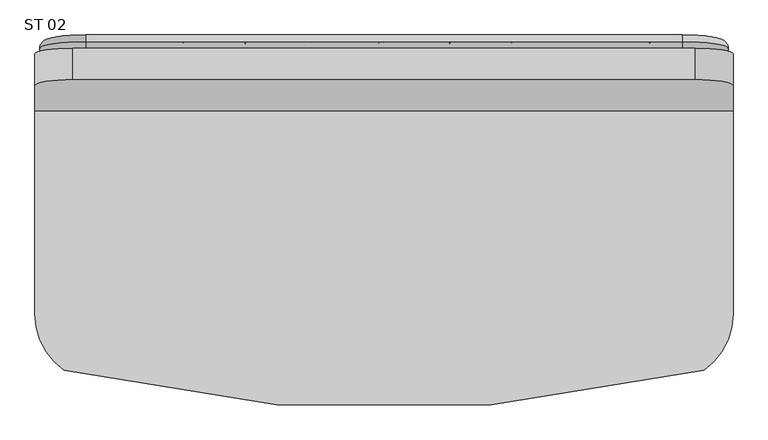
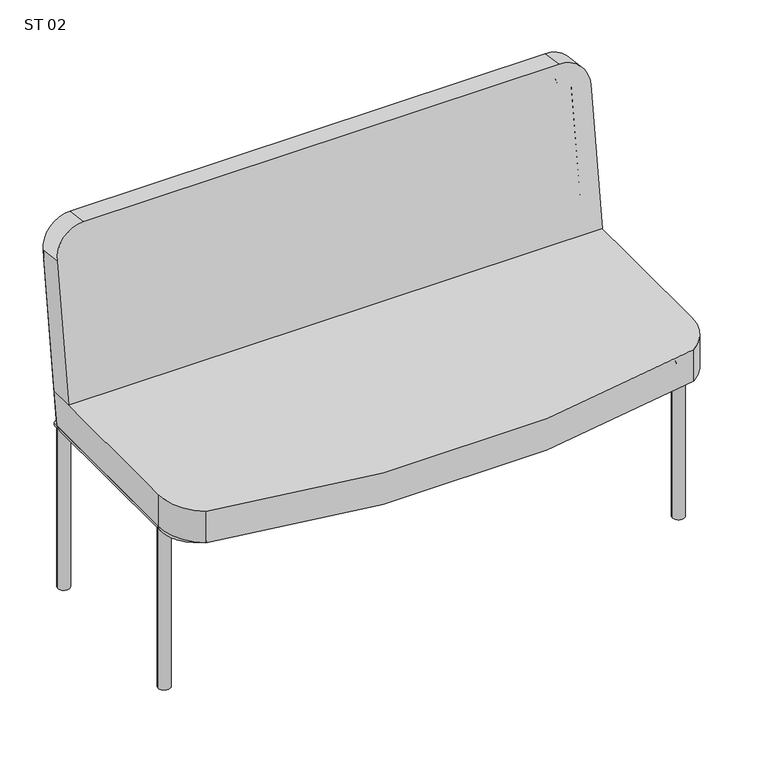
"""IFC4 building model written with IfcOpenShell, lengths in millimetres: furniture geometry, Mobiliário_Mobiliário de Escritório_Sofá - ST 02_Marelli : ST 02."""

from ifc_helpers import new_model, si_unit, point, frame, frame_2d, origin, origin_with_axes, place, context, project, spatial, circle_curve, ellipse_curve, trimmed, segment, composite_curve, outline, extrude, source, transform, mapped, element, save
from ifc_brep_helpers import plane_surface, cylinder_surface, revolved_surface, extruded_surface, advanced_brep


def st_02_cedb4559(model_context):
    return source(origin(), model_context, "Body", "SolidModel", [
        advanced_brep(
        [(1047.5, 412.5, 351.5), (1072.5, 437.5, 351.5), (1072.5, 65.0, 351.5), (1047.5, 65.0, 351.5), (995.0, 12.5, 351.5), (995.0, -12.5, 351.5), (65.0, -12.5, 351.5), (65.0, 12.5, 351.5), (12.5, 65.0, 351.5), (-12.5, 65.0, 351.5), (-12.5, 437.5, 351.5), (12.5, 412.5, 351.5)],
        [
            (0, 1, ellipse_curve(frame((1060.0, 425.0, 351.5), z_axis=(0.7071067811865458, -0.7071067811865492, 0.0), x_axis=(0.7071067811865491, 0.7071067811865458, 0.0)), 17.6776695, 12.5)),
            (1, 2),
            (2, 3, circle_curve(frame((1060.0, 65.0, 351.5), z_axis=(0.0, 1.0, 0.0), x_axis=(-1.0, 0.0, 0.0)), 12.5)),
            (3, 0),
            (1, 0, ellipse_curve(frame((1060.0, 425.0, 351.5), z_axis=(0.7071067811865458, -0.7071067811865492, 0.0), x_axis=(0.7071067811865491, 0.7071067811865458, 0.0)), 17.6776695, 12.5)),
            (3, 2, circle_curve(frame((1060.0, 65.0, 351.5), z_axis=(0.0, 1.0, 0.0), x_axis=(-1.0, 0.0, 0.0)), 12.5)),
            (4, 3, circle_curve(frame((995.0, 65.0, 351.5), z_axis=(0.0, 0.0, 1.0), x_axis=(1.0, 0.0, 0.0)), 52.5)),
            (2, 5, circle_curve(frame((995.0, 65.0, 351.5), z_axis=(0.0, 0.0, -1.0), x_axis=(1.0, 0.0, 0.0)), 77.5)),
            (5, 4, circle_curve(frame((995.0, 0.0, 351.5), z_axis=(1.0, 0.0, 0.0), x_axis=(0.0, 1.0, 0.0)), 12.5)),
            (4, 5, circle_curve(frame((995.0, 0.0, 351.5), z_axis=(1.0, 0.0, 0.0), x_axis=(0.0, 1.0, 0.0)), 12.5)),
            (5, 6),
            (6, 7, circle_curve(frame((65.0, 0.0, 351.5), z_axis=(1.0, 0.0, 0.0), x_axis=(0.0, 1.0, 0.0)), 12.5)),
            (7, 4),
            (7, 6, circle_curve(frame((65.0, 0.0, 351.5), z_axis=(1.0, 0.0, 0.0), x_axis=(0.0, 1.0, 0.0)), 12.5)),
            (8, 7, circle_curve(frame((65.0, 65.0, 351.5), z_axis=(0.0, 0.0, 1.0), x_axis=(0.0, -1.0, 0.0)), 52.5)),
            (6, 9, circle_curve(frame((65.0, 65.0, 351.5), z_axis=(0.0, 0.0, -1.0), x_axis=(0.0, -1.0, 0.0)), 77.5)),
            (9, 8, circle_curve(frame((0.0, 65.0, 351.5), z_axis=(0.0, -1.0, 0.0), x_axis=(1.0, 0.0, 0.0)), 12.5)),
            (8, 9, circle_curve(frame((0.0, 65.0, 351.5), z_axis=(0.0, -1.0, 0.0), x_axis=(1.0, 0.0, 0.0)), 12.5)),
            (9, 10),
            (10, 11, ellipse_curve(frame((0.0, 425.0, 351.5), z_axis=(-0.7071067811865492, -0.7071067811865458, 0.0), x_axis=(0.7071067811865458, -0.7071067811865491, 0.0)), 17.6776695, 12.5)),
            (11, 8),
            (11, 10, ellipse_curve(frame((0.0, 425.0, 351.5), z_axis=(-0.7071067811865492, -0.7071067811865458, 0.0), x_axis=(0.7071067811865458, -0.7071067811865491, 0.0)), 17.6776695, 12.5)),
            (10, 1),
            (0, 11),
        ],
        [
            cylinder_surface(frame((1060.0, 425.0, 351.5), z_axis=(0.0, 1.0, 0.0), x_axis=(-1.0, 0.0, 0.0)), 12.5),
            revolved_surface(trimmed(ellipse_curve(frame((1060.0, 65.0, 351.5), z_axis=(0.0, 1.0, 0.0), x_axis=(-1.0, 0.0, 0.0)), 12.5, 12.5), [point((1072.5, 65.0, 351.5))], [point((1047.5, 65.0, 351.5))], True, "CARTESIAN"), (995.0, 65.0, 0.0), (0.0, 0.0, -1.0)),
            revolved_surface(trimmed(ellipse_curve(frame((1060.0, 65.0, 351.5), z_axis=(0.0, 1.0, 0.0), x_axis=(-1.0, 0.0, 0.0)), 12.5, 12.5), [point((1047.5, 65.0, 351.5))], [point((1072.5, 65.0, 351.5))], True, "CARTESIAN"), (995.0, 65.0, 0.0), (0.0, 0.0, -1.0)),
            cylinder_surface(frame((995.0, 0.0, 351.5), z_axis=(1.0, 0.0, 0.0), x_axis=(0.0, 1.0, 0.0)), 12.5),
            revolved_surface(trimmed(ellipse_curve(frame((65.0, 0.0, 351.5), z_axis=(1.0, 0.0, 0.0), x_axis=(0.0, 1.0, 0.0)), 12.5, 12.5), [point((65.0, -12.5, 351.5))], [point((65.0, 12.5, 351.5))], True, "CARTESIAN"), (65.0, 65.0, 0.0), (0.0, 0.0, -1.0)),
            revolved_surface(trimmed(ellipse_curve(frame((65.0, 0.0, 351.5), z_axis=(1.0, 0.0, 0.0), x_axis=(0.0, 1.0, 0.0)), 12.5, 12.5), [point((65.0, 12.5, 351.5))], [point((65.0, -12.5, 351.5))], True, "CARTESIAN"), (65.0, 65.0, 0.0), (0.0, 0.0, -1.0)),
            cylinder_surface(frame((0.0, 65.0, 351.5), z_axis=(0.0, -1.0, 0.0), x_axis=(1.0, 0.0, 0.0)), 12.5),
            cylinder_surface(frame((0.0, 425.0, 351.5), z_axis=(-1.0, 0.0, 0.0), x_axis=(0.0, -1.0, 0.0)), 12.5),
        ],
        [
            (0, [[1, 2, 3, 4]]),
            (0, [[5, -4, 6, -2]]),
            (1, [[7, -3, 8, 9]]),
            (2, [[-8, -6, -7, 10]]),
            (3, [[-9, 11, 12, 13]]),
            (3, [[-10, -13, 14, -11]]),
            (4, [[15, -12, 16, 17]]),
            (5, [[-16, -14, -15, 18]]),
            (6, [[-17, 19, 20, 21]]),
            (6, [[-18, -21, 22, -19]]),
            (7, [[-20, 23, -1, 24]]),
            (7, [[-22, -24, -5, -23]]),
        ],
    ),
        extrude(outline(composite_curve([segment(trimmed(circle_curve(frame_2d((1060.0, 425.0)), 12.5), [point((1047.5, 425.0))], [point((1072.5, 425.0))], False, "CARTESIAN"), True, "CONTINUOUS"), segment(trimmed(circle_curve(frame_2d((1060.0, 425.0)), 12.5), [point((1072.5, 425.0))], [point((1047.5, 425.0))], False, "CARTESIAN"), True, "CONTINUOUS")], self_intersect=False)), origin_with_axes(), (0.0, 0.0, 1.0), 351.5),
        extrude(outline(composite_curve([segment(trimmed(circle_curve(frame_2d((0.0, 425.0)), 12.5), [point((-12.5, 425.0))], [point((12.5, 425.0))], False, "CARTESIAN"), True, "CONTINUOUS"), segment(trimmed(circle_curve(frame_2d((0.0, 425.0)), 12.5), [point((12.5, 425.0))], [point((-12.5, 425.0))], False, "CARTESIAN"), True, "CONTINUOUS")], self_intersect=False)), origin_with_axes(), (0.0, 0.0, 1.0), 351.5),
        extrude(outline(composite_curve([segment(trimmed(circle_curve(frame_2d((1060.0, 66.3272741)), 12.5), [point((1047.5, 66.3272741))], [point((1072.5, 66.3272741))], False, "CARTESIAN"), True, "CONTINUOUS"), segment(trimmed(circle_curve(frame_2d((1060.0, 66.3272741)), 12.5), [point((1072.5, 66.3272741))], [point((1047.5, 66.3272741))], False, "CARTESIAN"), True, "CONTINUOUS")], self_intersect=False)), origin_with_axes(), (0.0, 0.0, 1.0), 351.5),
        extrude(outline(composite_curve([segment(trimmed(circle_curve(frame_2d((0.0, 66.3272741)), 12.5), [point((-12.5, 66.3272741))], [point((12.5, 66.3272741))], False, "CARTESIAN"), True, "CONTINUOUS"), segment(trimmed(circle_curve(frame_2d((0.0, 66.3272741)), 12.5), [point((12.5, 66.3272741))], [point((-12.5, 66.3272741))], False, "CARTESIAN"), True, "CONTINUOUS")], self_intersect=False)), origin_with_axes(), (0.0, 0.0, 1.0), 351.5),
        advanced_brep(
        [(-12.5, 425.0, 351.5), (12.5, 425.0, 351.5), (-12.5, 472.3188543, 688.1911434), (12.5, 472.3188543, 688.1911434), (60.0, 478.9295766, 735.2288766), (60.0, 482.4089041, 759.9855784), (1000.0, 482.4089041, 759.9855784), (1000.0, 478.9295766, 735.2288766), (1047.5, 472.3188543, 688.1911434), (1072.5, 472.3188543, 688.1911434), (1072.5, 425.0, 351.5), (1047.5, 425.0, 351.5)],
        [
            (0, 1, circle_curve(frame((0.0, 425.0, 351.5), z_axis=(0.0, -0.13917310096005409, -0.990268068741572), x_axis=(1.0, 0.0, 0.0)), 12.5)),
            (1, 0, circle_curve(frame((0.0, 425.0, 351.5), z_axis=(0.0, -0.13917310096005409, -0.990268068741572), x_axis=(1.0, 0.0, 0.0)), 12.5)),
            (0, 2),
            (2, 3, circle_curve(frame((0.0, 472.3188543, 688.1911434), z_axis=(0.0, -0.13917310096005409, -0.990268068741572), x_axis=(1.0, 0.0, 0.0)), 12.5)),
            (3, 1),
            (3, 2, circle_curve(frame((0.0, 472.3188543, 688.1911434), z_axis=(0.0, -0.13917310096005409, -0.990268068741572), x_axis=(1.0, 0.0, 0.0)), 12.5)),
            (4, 3, circle_curve(frame((60.0, 472.3188543, 688.1911434), z_axis=(0.0, -0.990268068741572, 0.13917310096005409), x_axis=(-1.0, 0.0, 0.0)), 47.5)),
            (2, 5, circle_curve(frame((60.0, 472.3188543, 688.1911434), z_axis=(0.0, 0.990268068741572, -0.13917310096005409), x_axis=(-1.0, 0.0, 0.0)), 72.5)),
            (5, 4, circle_curve(frame((60.0, 480.6692404, 747.6072275), z_axis=(-1.0, 0.0, 0.0), x_axis=(0.0, -0.13917310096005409, -0.990268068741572)), 12.5)),
            (4, 5, circle_curve(frame((60.0, 480.6692404, 747.6072275), z_axis=(-1.0, 0.0, 0.0), x_axis=(0.0, -0.13917310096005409, -0.990268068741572)), 12.5)),
            (5, 6),
            (6, 7, circle_curve(frame((1000.0, 480.6692404, 747.6072275), z_axis=(-1.0, 0.0, 0.0), x_axis=(0.0, -0.13917310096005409, -0.990268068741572)), 12.5)),
            (7, 4),
            (7, 6, circle_curve(frame((1000.0, 480.6692404, 747.6072275), z_axis=(-1.0, 0.0, 0.0), x_axis=(0.0, -0.13917310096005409, -0.990268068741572)), 12.5)),
            (8, 7, circle_curve(frame((1000.0, 472.3188543, 688.1911434), z_axis=(0.0, -0.990268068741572, 0.13917310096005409), x_axis=(0.0, 0.13917310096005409, 0.990268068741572)), 47.5)),
            (6, 9, circle_curve(frame((1000.0, 472.3188543, 688.1911434), z_axis=(0.0, 0.990268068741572, -0.13917310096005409), x_axis=(0.0, 0.13917310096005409, 0.990268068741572)), 72.5)),
            (9, 8, circle_curve(frame((1060.0, 472.3188543, 688.1911434), z_axis=(0.0, 0.13917310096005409, 0.990268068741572), x_axis=(-1.0000000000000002, 0.0, 0.0)), 12.5)),
            (8, 9, circle_curve(frame((1060.0, 472.3188543, 688.1911434), z_axis=(0.0, 0.13917310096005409, 0.990268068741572), x_axis=(-1.0000000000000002, 0.0, 0.0)), 12.5)),
            (10, 11, circle_curve(frame((1060.0, 425.0, 351.5), z_axis=(0.0, -0.13917310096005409, -0.9902680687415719), x_axis=(-1.0, 0.0, 0.0)), 12.5)),
            (11, 10, circle_curve(frame((1060.0, 425.0, 351.5), z_axis=(0.0, -0.13917310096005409, -0.9902680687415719), x_axis=(-1.0, 0.0, 0.0)), 12.5)),
            (9, 10),
            (11, 8),
        ],
        [
            plane_surface(frame((0.0, 4.1360708, 410.6485679), z_axis=(0.0, -0.13917310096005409, -0.990268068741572), x_axis=(0.0, -0.990268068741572, 0.13917310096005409))),
            cylinder_surface(frame((0.0, 425.0, 351.5), z_axis=(0.0, -0.13917310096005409, -0.990268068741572), x_axis=(1.0, 0.0, 0.0)), 12.5),
            revolved_surface(trimmed(ellipse_curve(frame((0.0, 472.3188543, 688.1911434), z_axis=(0.0, -0.13917310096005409, -0.990268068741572), x_axis=(1.0, 0.0, 0.0)), 12.5, 12.5), [point((-12.5, 472.3188543, 688.1911434))], [point((12.5, 472.3188543, 688.1911434))], True, "CARTESIAN"), (60.0, 51.4549251, 747.3397113), (0.0, 0.990268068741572, -0.13917310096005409)),
            revolved_surface(trimmed(ellipse_curve(frame((0.0, 472.3188543, 688.1911434), z_axis=(0.0, -0.13917310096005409, -0.990268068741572), x_axis=(1.0, 0.0, 0.0)), 12.5, 12.5), [point((12.5, 472.3188543, 688.1911434))], [point((-12.5, 472.3188543, 688.1911434))], True, "CARTESIAN"), (60.0, 51.4549251, 747.3397113), (0.0, 0.990268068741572, -0.13917310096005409)),
            cylinder_surface(frame((60.0, 480.6692404, 747.6072275), z_axis=(-1.0, 0.0, 0.0), x_axis=(0.0, -0.13917310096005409, -0.990268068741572)), 12.5),
            revolved_surface(trimmed(ellipse_curve(frame((1000.0, 480.6692404, 747.6072275), z_axis=(-1.0000000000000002, 0.0, 0.0), x_axis=(0.0, -0.13917310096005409, -0.990268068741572)), 12.5, 12.5), [point((1000.0, 482.4089041, 759.9855784))], [point((1000.0, 478.9295766, 735.2288766))], True, "CARTESIAN"), (1000.0, 51.4549251, 747.3397113), (0.0, 0.990268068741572, -0.13917310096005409)),
            revolved_surface(trimmed(ellipse_curve(frame((1000.0, 480.6692404, 747.6072275), z_axis=(-1.0000000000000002, 0.0, 0.0), x_axis=(0.0, -0.13917310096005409, -0.990268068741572)), 12.5, 12.5), [point((1000.0, 478.9295766, 735.2288766))], [point((1000.0, 482.4089041, 759.9855784))], True, "CARTESIAN"), (1000.0, 51.4549251, 747.3397113), (0.0, 0.990268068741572, -0.13917310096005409)),
            plane_surface(frame((1060.0, 4.1360708, 410.6485679), z_axis=(0.0, -0.13917310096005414, -0.990268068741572), x_axis=(0.0, -0.990268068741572, 0.13917310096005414))),
            cylinder_surface(frame((1060.0, 472.3188543, 688.1911434), z_axis=(0.0, 0.13917310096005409, 0.9902680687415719), x_axis=(-1.0, 0.0, 0.0)), 12.5),
        ],
        [
            (0, [[1, 2]]),
            (1, [[-1, 3, 4, 5]]),
            (1, [[-2, -5, 6, -3]]),
            (2, [[7, -4, 8, 9]]),
            (3, [[-8, -6, -7, 10]]),
            (4, [[-9, 11, 12, 13]]),
            (4, [[-10, -13, 14, -11]]),
            (5, [[15, -12, 16, 17]]),
            (6, [[-16, -14, -15, 18]]),
            (7, [[19, 20]]),
            (8, [[-17, 21, -20, 22]]),
            (8, [[-18, -22, -19, -21]]),
        ],
    ),
        advanced_brep(
        [(1080.0, 373.2866825, 433.0), (1080.0, 423.7780611, 433.0), (1080.0, 463.5119814, 715.7215336), (1080.0, 413.998578, 722.6801887), (-20.0, 413.998578, 722.6801887), (-20.0, 463.5119814, 715.7215336), (-20.0, 423.7780611, 433.0), (-20.0, 373.2866825, 433.0), (1020.0, 422.348964, 782.0962728), (40.0, 422.348964, 782.0962728), (40.0, 471.8623675, 775.1376178), (1020.0, 471.8623675, 775.1376178)],
        [
            (0, 1),
            (1, 2),
            (2, 3),
            (3, 0),
            (4, 5),
            (5, 6),
            (6, 7),
            (7, 4),
            (0, 7),
            (6, 1),
            (3, 8, circle_curve(frame((1020.0, 413.998578, 722.6801887), z_axis=(0.0, -0.9902680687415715, 0.13917310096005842), x_axis=(-1.0, 0.0, 0.0)), 60.0)),
            (8, 9),
            (9, 4, circle_curve(frame((40.0, 413.998578, 722.6801887), z_axis=(0.0, -0.9902680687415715, 0.13917310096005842), x_axis=(1.0, 0.0, 0.0)), 60.0)),
            (5, 10, circle_curve(frame((40.0, 463.5119814, 715.7215336), z_axis=(0.0, 0.9902680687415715, -0.13917310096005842), x_axis=(1.0, 0.0, 0.0)), 60.0)),
            (10, 11),
            (11, 2, circle_curve(frame((1020.0, 463.5119814, 715.7215336), z_axis=(0.0, 0.9902680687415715, -0.13917310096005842), x_axis=(-1.0, 0.0, 0.0)), 60.0)),
            (11, 8),
            (10, 9),
        ],
        [
            plane_surface(frame((1080.0, 423.77933, 433.0), z_axis=(1.0, 0.0, 0.0), x_axis=(0.0, 1.0, 0.0))),
            plane_surface(frame((-20.0, 423.77933, 433.0), z_axis=(-1.0, 0.0, 0.0), x_axis=(0.0, -1.0, 0.0))),
            plane_surface(frame((1080.0, 373.2866825, 433.0), z_axis=(0.0, 0.0, -1.0), x_axis=(-1.0, 0.0, 0.0))),
            plane_surface(frame((1080.0, 374.2646577, 439.958655), z_axis=(0.0, -0.9902680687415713, 0.13917310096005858), x_axis=(-1.0, 0.0, 0.0))),
            plane_surface(frame((1080.0, 418.9765891, 398.8357516), z_axis=(0.0, 0.9902680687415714, -0.13917310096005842), x_axis=(0.0, -0.13917310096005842, -0.9902680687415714))),
            cylinder_surface(frame((1020.0, 463.5119814, 715.7215336), z_axis=(0.0, -0.9902680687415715, 0.13917310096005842), x_axis=(-1.0, 0.0, 0.0)), 60.0),
            plane_surface(frame((1020.0, 422.348964, 782.0962728), z_axis=(0.0, 0.13917310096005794, 0.9902680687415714), x_axis=(0.0, 0.9902680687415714, -0.13917310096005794))),
            cylinder_surface(frame((40.0, 463.5119814, 715.7215336), z_axis=(0.0, -0.9902680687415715, 0.13917310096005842), x_axis=(1.0, 0.0, 0.0)), 60.0),
        ],
        [
            (0, [[1, 2, 3, 4]]),
            (1, [[5, 6, 7, 8]]),
            (2, [[-1, 9, -7, 10]]),
            (3, [[-4, 11, 12, 13, -8, -9]]),
            (4, [[-6, 14, 15, 16, -2, -10]]),
            (5, [[-11, -3, -16, 17]]),
            (6, [[-12, -17, -15, 18]]),
            (7, [[-13, -18, -14, -5]]),
        ],
    ),
        advanced_brep(
        [(1080.0, 414.0807435, 364.0), (1080.0, 423.7780611, 433.0), (1080.0, 53.2866825, 433.0), (1080.0, 53.2866825, 364.0), (-20.0, 423.7780611, 433.0), (-20.0, 414.0807435, 364.0), (-20.0, 53.2866825, 364.0), (-20.0, 53.2866825, 433.0), (26.4720369, -35.1010659, 433.0), (1033.5279631, -35.1010659, 433.0), (1033.5279631, -35.1010659, 364.0), (26.4720369, -35.1010659, 364.0)],
        [
            (0, 1),
            (1, 2),
            (2, 3),
            (3, 0),
            (4, 5),
            (5, 6),
            (6, 7),
            (7, 4),
            (0, 5),
            (4, 1),
            (7, 8, circle_curve(frame((87.2908026, 53.2866825, 433.0), z_axis=(0.0, 0.0, 1.0), x_axis=(-1.0, 0.0, 0.0)), 107.2908026)),
            (8, 9, circle_curve(frame((530.0, 2007.6553786, 433.0), z_axis=(0.0, 0.0, 1.0), x_axis=(1.0, 0.0, 0.0)), 2103.899784)),
            (9, 2, circle_curve(frame((972.7091974, 53.2866825, 433.0), z_axis=(0.0, 0.0, 1.0), x_axis=(1.0, 0.0, 0.0)), 107.2908026)),
            (3, 10, circle_curve(frame((972.7091974, 53.2866825, 364.0), z_axis=(0.0, 0.0, -1.0), x_axis=(1.0, 0.0, 0.0)), 107.2908026)),
            (10, 11, circle_curve(frame((530.0, 2007.6553786, 364.0), z_axis=(0.0, 0.0, -1.0), x_axis=(1.0, 0.0, 0.0)), 2103.899784)),
            (11, 6, circle_curve(frame((87.2908026, 53.2866825, 364.0), z_axis=(0.0, 0.0, -1.0), x_axis=(-1.0, 0.0, 0.0)), 107.2908026)),
            (11, 8),
            (10, 9),
        ],
        [
            plane_surface(frame((1080.0, 414.0807435, 364.0), z_axis=(1.0000000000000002, 0.0, 0.0), x_axis=(0.0, 0.13917310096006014, 0.9902680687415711))),
            plane_surface(frame((-20.0, 414.0807435, 364.0), z_axis=(-1.0000000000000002, 0.0, 0.0), x_axis=(0.0, -0.13917310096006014, -0.9902680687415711))),
            plane_surface(frame((1080.0, 414.0807435, 364.0), z_axis=(0.0, 0.9902680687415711, -0.13917310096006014), x_axis=(-1.0, 0.0, 0.0))),
            plane_surface(frame((1080.0, 423.7780611, 433.0), z_axis=(0.0, 0.0, 1.0), x_axis=(-1.0, 0.0, 0.0))),
            plane_surface(frame((-20.0, 414.0807435, 364.0), z_axis=(0.0, 0.0, -1.0), x_axis=(1.0, 0.0, 0.0))),
            cylinder_surface(frame((87.2908026, 53.2866825, 364.0), z_axis=(0.0, 0.0, 1.0), x_axis=(-1.0, 0.0, 0.0)), 107.2908026),
            cylinder_surface(frame((530.0, 2007.6553786, 364.0), z_axis=(0.0, 0.0, 1.0), x_axis=(1.0, 0.0, 0.0)), 2103.899784),
            cylinder_surface(frame((972.7091974, 53.2866825, 364.0), z_axis=(0.0, 0.0, 1.0), x_axis=(1.0, 0.0, 0.0)), 107.2908026),
        ],
        [
            (0, [[1, 2, 3, 4]]),
            (1, [[5, 6, 7, 8]]),
            (2, [[-1, 9, -5, 10]]),
            (3, [[-2, -10, -8, 11, 12, 13]]),
            (4, [[-4, 14, 15, 16, -6, -9]]),
            (5, [[-11, -7, -16, 17]]),
            (6, [[-12, -17, -15, 18]]),
            (7, [[-13, -18, -14, -3]]),
        ],
    ),
        advanced_brep(
        [(101.0, 481.2780611, 750.0), (109.0, 481.2780611, 750.0), (101.0, 423.7780611, 350.0), (109.0, 423.7780611, 350.0)],
        [
            (0, 1, circle_curve(frame((105.0, 481.2780611, 750.0), z_axis=(0.0, 0.0, 1.0), x_axis=(1.0, 0.0, 0.0)), 4.0)),
            (1, 0, circle_curve(frame((105.0, 481.2780611, 750.0), z_axis=(0.0, 0.0, 1.0), x_axis=(1.0, 0.0, 0.0)), 4.0)),
            (2, 3, circle_curve(frame((105.0, 423.7780611, 350.0), z_axis=(0.0, 0.0, -1.0), x_axis=(1.0, 0.0, 0.0)), 4.0)),
            (3, 2, circle_curve(frame((105.0, 423.7780611, 350.0), z_axis=(0.0, 0.0, -1.0), x_axis=(1.0, 0.0, 0.0)), 4.0)),
            (3, 1),
            (0, 2),
        ],
        [
            plane_surface(frame((105.0, 481.2780611, 750.0), z_axis=(0.0, 0.0, 1.0), x_axis=(0.0, -1.0, 0.0))),
            plane_surface(frame((105.0, 423.7780611, 350.0), z_axis=(0.0, 0.0, -1.0), x_axis=(0.0, -1.0, 0.0))),
            extruded_surface(trimmed(circle_curve(frame((105.0, 423.7780611, 350.0), z_axis=(0.0, 0.0, 1.0), x_axis=(1.0, 0.0, 0.0)), 4.0), [point((101.0, 423.7780611, 350.0))], [point((109.0, 423.7780611, 350.0))], True, "CARTESIAN"), (0.0, 57.5, 400.0), 404.11168010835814),
            extruded_surface(trimmed(circle_curve(frame((105.0, 423.7780611, 350.0), z_axis=(0.0, 0.0, 1.0), x_axis=(1.0, 0.0, 0.0)), 4.0), [point((109.0, 423.7780611, 350.0))], [point((101.0, 423.7780611, 350.0))], True, "CARTESIAN"), (0.0, 57.5, 400.0), 404.11168010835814),
        ],
        [
            (0, [[1, 2]]),
            (1, [[3, 4]]),
            (2, [[-4, 5, -1, 6]]),
            (3, [[-3, -6, -2, -5]]),
        ],
    ),
        advanced_brep(
        [(206.0, 481.2780611, 750.0), (214.0, 481.2780611, 750.0), (206.0, 423.7780611, 350.0), (214.0, 423.7780611, 350.0)],
        [
            (0, 1, circle_curve(frame((210.0, 481.2780611, 750.0), z_axis=(0.0, 0.0, 1.0), x_axis=(1.0, 0.0, 0.0)), 4.0)),
            (1, 0, circle_curve(frame((210.0, 481.2780611, 750.0), z_axis=(0.0, 0.0, 1.0), x_axis=(1.0, 0.0, 0.0)), 4.0)),
            (2, 3, circle_curve(frame((210.0, 423.7780611, 350.0), z_axis=(0.0, 0.0, -1.0), x_axis=(1.0, 0.0, 0.0)), 4.0)),
            (3, 2, circle_curve(frame((210.0, 423.7780611, 350.0), z_axis=(0.0, 0.0, -1.0), x_axis=(1.0, 0.0, 0.0)), 4.0)),
            (3, 1),
            (0, 2),
        ],
        [
            plane_surface(frame((210.0, 481.2780611, 750.0), z_axis=(0.0, 0.0, 1.0), x_axis=(0.0, -1.0, 0.0))),
            plane_surface(frame((210.0, 423.7780611, 350.0), z_axis=(0.0, 0.0, -1.0), x_axis=(0.0, -1.0, 0.0))),
            extruded_surface(trimmed(circle_curve(frame((210.0, 423.7780611, 350.0), z_axis=(0.0, 0.0, 1.0), x_axis=(1.0, 0.0, 0.0)), 4.0), [point((206.0, 423.7780611, 350.0))], [point((214.0, 423.7780611, 350.0))], True, "CARTESIAN"), (0.0, 57.5, 400.0), 404.11168010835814),
            extruded_surface(trimmed(circle_curve(frame((210.0, 423.7780611, 350.0), z_axis=(0.0, 0.0, 1.0), x_axis=(1.0, 0.0, 0.0)), 4.0), [point((214.0, 423.7780611, 350.0))], [point((206.0, 423.7780611, 350.0))], True, "CARTESIAN"), (0.0, 57.5, 400.0), 404.11168010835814),
        ],
        [
            (0, [[1, 2]]),
            (1, [[3, 4]]),
            (2, [[-4, 5, -1, 6]]),
            (3, [[-3, -6, -2, -5]]),
        ],
    ),
        advanced_brep(
        [(311.0, 481.2780611, 750.0), (319.0, 481.2780611, 750.0), (311.0, 423.7780611, 350.0), (319.0, 423.7780611, 350.0)],
        [
            (0, 1, circle_curve(frame((315.0, 481.2780611, 750.0), z_axis=(0.0, 0.0, 1.0), x_axis=(1.0, 0.0, 0.0)), 4.0)),
            (1, 0, circle_curve(frame((315.0, 481.2780611, 750.0), z_axis=(0.0, 0.0, 1.0), x_axis=(1.0, 0.0, 0.0)), 4.0)),
            (2, 3, circle_curve(frame((315.0, 423.7780611, 350.0), z_axis=(0.0, 0.0, -1.0), x_axis=(1.0, 0.0, 0.0)), 4.0)),
            (3, 2, circle_curve(frame((315.0, 423.7780611, 350.0), z_axis=(0.0, 0.0, -1.0), x_axis=(1.0, 0.0, 0.0)), 4.0)),
            (3, 1),
            (0, 2),
        ],
        [
            plane_surface(frame((315.0, 481.2780611, 750.0), z_axis=(0.0, 0.0, 1.0), x_axis=(0.0, -1.0, 0.0))),
            plane_surface(frame((315.0, 423.7780611, 350.0), z_axis=(0.0, 0.0, -1.0), x_axis=(0.0, -1.0, 0.0))),
            extruded_surface(trimmed(circle_curve(frame((315.0, 423.7780611, 350.0), z_axis=(0.0, 0.0, 1.0), x_axis=(1.0, 0.0, 0.0)), 4.0), [point((311.0, 423.7780611, 350.0))], [point((319.0, 423.7780611, 350.0))], True, "CARTESIAN"), (0.0, 57.5, 400.0), 404.11168010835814),
            extruded_surface(trimmed(circle_curve(frame((315.0, 423.7780611, 350.0), z_axis=(0.0, 0.0, 1.0), x_axis=(1.0, 0.0, 0.0)), 4.0), [point((319.0, 423.7780611, 350.0))], [point((311.0, 423.7780611, 350.0))], True, "CARTESIAN"), (0.0, 57.5, 400.0), 404.11168010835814),
        ],
        [
            (0, [[1, 2]]),
            (1, [[3, 4]]),
            (2, [[-4, 5, -1, 6]]),
            (3, [[-3, -6, -2, -5]]),
        ],
    ),
        advanced_brep(
        [(416.0, 481.2780611, 750.0), (424.0, 481.2780611, 750.0), (416.0, 423.7780611, 350.0), (424.0, 423.7780611, 350.0)],
        [
            (0, 1, circle_curve(frame((420.0, 481.2780611, 750.0), z_axis=(0.0, 0.0, 1.0), x_axis=(1.0, 0.0, 0.0)), 4.0)),
            (1, 0, circle_curve(frame((420.0, 481.2780611, 750.0), z_axis=(0.0, 0.0, 1.0), x_axis=(1.0, 0.0, 0.0)), 4.0)),
            (2, 3, circle_curve(frame((420.0, 423.7780611, 350.0), z_axis=(0.0, 0.0, -1.0), x_axis=(1.0, 0.0, 0.0)), 4.0)),
            (3, 2, circle_curve(frame((420.0, 423.7780611, 350.0), z_axis=(0.0, 0.0, -1.0), x_axis=(1.0, 0.0, 0.0)), 4.0)),
            (3, 1),
            (0, 2),
        ],
        [
            plane_surface(frame((420.0, 481.2780611, 750.0), z_axis=(0.0, 0.0, 1.0), x_axis=(0.0, -1.0, 0.0))),
            plane_surface(frame((420.0, 423.7780611, 350.0), z_axis=(0.0, 0.0, -1.0), x_axis=(0.0, -1.0, 0.0))),
            extruded_surface(trimmed(circle_curve(frame((420.0, 423.7780611, 350.0), z_axis=(0.0, 0.0, 1.0), x_axis=(1.0, 0.0, 0.0)), 4.0), [point((416.0, 423.7780611, 350.0))], [point((424.0, 423.7780611, 350.0))], True, "CARTESIAN"), (0.0, 57.5, 400.0), 404.11168010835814),
            extruded_surface(trimmed(circle_curve(frame((420.0, 423.7780611, 350.0), z_axis=(0.0, 0.0, 1.0), x_axis=(1.0, 0.0, 0.0)), 4.0), [point((424.0, 423.7780611, 350.0))], [point((416.0, 423.7780611, 350.0))], True, "CARTESIAN"), (0.0, 57.5, 400.0), 404.11168010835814),
        ],
        [
            (0, [[1, 2]]),
            (1, [[3, 4]]),
            (2, [[-4, 5, -1, 6]]),
            (3, [[-3, -6, -2, -5]]),
        ],
    ),
        advanced_brep(
        [(521.0, 481.2780611, 750.0), (529.0, 481.2780611, 750.0), (521.0, 423.7780611, 350.0), (529.0, 423.7780611, 350.0)],
        [
            (0, 1, circle_curve(frame((525.0, 481.2780611, 750.0), z_axis=(0.0, 0.0, 1.0), x_axis=(1.0, 0.0, 0.0)), 4.0)),
            (1, 0, circle_curve(frame((525.0, 481.2780611, 750.0), z_axis=(0.0, 0.0, 1.0), x_axis=(1.0, 0.0, 0.0)), 4.0)),
            (2, 3, circle_curve(frame((525.0, 423.7780611, 350.0), z_axis=(0.0, 0.0, -1.0), x_axis=(1.0, 0.0, 0.0)), 4.0)),
            (3, 2, circle_curve(frame((525.0, 423.7780611, 350.0), z_axis=(0.0, 0.0, -1.0), x_axis=(1.0, 0.0, 0.0)), 4.0)),
            (3, 1),
            (0, 2),
        ],
        [
            plane_surface(frame((525.0, 481.2780611, 750.0), z_axis=(0.0, 0.0, 1.0), x_axis=(0.0, -1.0, 0.0))),
            plane_surface(frame((525.0, 423.7780611, 350.0), z_axis=(0.0, 0.0, -1.0), x_axis=(0.0, -1.0, 0.0))),
            extruded_surface(trimmed(circle_curve(frame((525.0, 423.7780611, 350.0), z_axis=(0.0, 0.0, 1.0), x_axis=(1.0, 0.0, 0.0)), 4.0), [point((521.0, 423.7780611, 350.0))], [point((529.0, 423.7780611, 350.0))], True, "CARTESIAN"), (0.0, 57.5, 400.0), 404.11168010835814),
            extruded_surface(trimmed(circle_curve(frame((525.0, 423.7780611, 350.0), z_axis=(0.0, 0.0, 1.0), x_axis=(1.0, 0.0, 0.0)), 4.0), [point((529.0, 423.7780611, 350.0))], [point((521.0, 423.7780611, 350.0))], True, "CARTESIAN"), (0.0, 57.5, 400.0), 404.11168010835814),
        ],
        [
            (0, [[1, 2]]),
            (1, [[3, 4]]),
            (2, [[-4, 5, -1, 6]]),
            (3, [[-3, -6, -2, -5]]),
        ],
    ),
        advanced_brep(
        [(949.0, 481.2780611, 750.0), (941.0, 481.2780611, 750.0), (949.0, 423.7780611, 350.0), (941.0, 423.7780611, 350.0)],
        [
            (0, 1, circle_curve(frame((945.0, 481.2780611, 750.0), z_axis=(0.0, 0.0, 1.0), x_axis=(-1.0, 0.0, 0.0)), 4.0)),
            (1, 0, circle_curve(frame((945.0, 481.2780611, 750.0), z_axis=(0.0, 0.0, 1.0), x_axis=(-1.0, 0.0, 0.0)), 4.0)),
            (2, 3, circle_curve(frame((945.0, 423.7780611, 350.0), z_axis=(0.0, 0.0, -1.0), x_axis=(-1.0, 0.0, 0.0)), 4.0)),
            (3, 2, circle_curve(frame((945.0, 423.7780611, 350.0), z_axis=(0.0, 0.0, -1.0), x_axis=(-1.0, 0.0, 0.0)), 4.0)),
            (2, 0),
            (1, 3),
        ],
        [
            plane_surface(frame((945.0, 481.2780611, 750.0), z_axis=(0.0, 0.0, 1.0), x_axis=(0.0, 1.0, 0.0))),
            plane_surface(frame((945.0, 423.7780611, 350.0), z_axis=(0.0, 0.0, -1.0), x_axis=(0.0, 1.0, 0.0))),
            extruded_surface(trimmed(circle_curve(frame((945.0, 423.7780611, 350.0), z_axis=(0.0, 0.0, 1.0), x_axis=(-1.0, 0.0, 0.0)), 4.0), [point((941.0, 423.7780611, 350.0))], [point((949.0, 423.7780611, 350.0))], True, "CARTESIAN"), (0.0, 57.5, 400.0), 404.11168010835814),
            extruded_surface(trimmed(circle_curve(frame((945.0, 423.7780611, 350.0), z_axis=(0.0, 0.0, 1.0), x_axis=(-1.0, 0.0, 0.0)), 4.0), [point((949.0, 423.7780611, 350.0))], [point((941.0, 423.7780611, 350.0))], True, "CARTESIAN"), (0.0, 57.5, 400.0), 404.11168010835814),
        ],
        [
            (0, [[1, 2]]),
            (1, [[3, 4]]),
            (2, [[-3, 5, -2, 6]]),
            (3, [[-4, -6, -1, -5]]),
        ],
    ),
        advanced_brep(
        [(844.0, 481.2780611, 750.0), (836.0, 481.2780611, 750.0), (844.0, 423.7780611, 350.0), (836.0, 423.7780611, 350.0)],
        [
            (0, 1, circle_curve(frame((840.0, 481.2780611, 750.0), z_axis=(0.0, 0.0, 1.0), x_axis=(-1.0, 0.0, 0.0)), 4.0)),
            (1, 0, circle_curve(frame((840.0, 481.2780611, 750.0), z_axis=(0.0, 0.0, 1.0), x_axis=(-1.0, 0.0, 0.0)), 4.0)),
            (2, 3, circle_curve(frame((840.0, 423.7780611, 350.0), z_axis=(0.0, 0.0, -1.0), x_axis=(-1.0, 0.0, 0.0)), 4.0)),
            (3, 2, circle_curve(frame((840.0, 423.7780611, 350.0), z_axis=(0.0, 0.0, -1.0), x_axis=(-1.0, 0.0, 0.0)), 4.0)),
            (2, 0),
            (1, 3),
        ],
        [
            plane_surface(frame((840.0, 481.2780611, 750.0), z_axis=(0.0, 0.0, 1.0), x_axis=(0.0, 1.0, 0.0))),
            plane_surface(frame((840.0, 423.7780611, 350.0), z_axis=(0.0, 0.0, -1.0), x_axis=(0.0, 1.0, 0.0))),
            extruded_surface(trimmed(circle_curve(frame((840.0, 423.7780611, 350.0), z_axis=(0.0, 0.0, 1.0), x_axis=(-1.0, 0.0, 0.0)), 4.0), [point((836.0, 423.7780611, 350.0))], [point((844.0, 423.7780611, 350.0))], True, "CARTESIAN"), (0.0, 57.5, 400.0), 404.11168010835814),
            extruded_surface(trimmed(circle_curve(frame((840.0, 423.7780611, 350.0), z_axis=(0.0, 0.0, 1.0), x_axis=(-1.0, 0.0, 0.0)), 4.0), [point((844.0, 423.7780611, 350.0))], [point((836.0, 423.7780611, 350.0))], True, "CARTESIAN"), (0.0, 57.5, 400.0), 404.11168010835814),
        ],
        [
            (0, [[1, 2]]),
            (1, [[3, 4]]),
            (2, [[-3, 5, -2, 6]]),
            (3, [[-4, -6, -1, -5]]),
        ],
    ),
        advanced_brep(
        [(739.0, 481.2780611, 750.0), (731.0, 481.2780611, 750.0), (739.0, 423.7780611, 350.0), (731.0, 423.7780611, 350.0)],
        [
            (0, 1, circle_curve(frame((735.0, 481.2780611, 750.0), z_axis=(0.0, 0.0, 1.0), x_axis=(-1.0, 0.0, 0.0)), 4.0)),
            (1, 0, circle_curve(frame((735.0, 481.2780611, 750.0), z_axis=(0.0, 0.0, 1.0), x_axis=(-1.0, 0.0, 0.0)), 4.0)),
            (2, 3, circle_curve(frame((735.0, 423.7780611, 350.0), z_axis=(0.0, 0.0, -1.0), x_axis=(-1.0, 0.0, 0.0)), 4.0)),
            (3, 2, circle_curve(frame((735.0, 423.7780611, 350.0), z_axis=(0.0, 0.0, -1.0), x_axis=(-1.0, 0.0, 0.0)), 4.0)),
            (2, 0),
            (1, 3),
        ],
        [
            plane_surface(frame((735.0, 481.2780611, 750.0), z_axis=(0.0, 0.0, 1.0), x_axis=(0.0, 1.0, 0.0))),
            plane_surface(frame((735.0, 423.7780611, 350.0), z_axis=(0.0, 0.0, -1.0), x_axis=(0.0, 1.0, 0.0))),
            extruded_surface(trimmed(circle_curve(frame((735.0, 423.7780611, 350.0), z_axis=(0.0, 0.0, 1.0), x_axis=(-1.0, 0.0, 0.0)), 4.0), [point((731.0, 423.7780611, 350.0))], [point((739.0, 423.7780611, 350.0))], True, "CARTESIAN"), (0.0, 57.5, 400.0), 404.11168010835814),
            extruded_surface(trimmed(circle_curve(frame((735.0, 423.7780611, 350.0), z_axis=(0.0, 0.0, 1.0), x_axis=(-1.0, 0.0, 0.0)), 4.0), [point((739.0, 423.7780611, 350.0))], [point((731.0, 423.7780611, 350.0))], True, "CARTESIAN"), (0.0, 57.5, 400.0), 404.11168010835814),
        ],
        [
            (0, [[1, 2]]),
            (1, [[3, 4]]),
            (2, [[-3, 5, -2, 6]]),
            (3, [[-4, -6, -1, -5]]),
        ],
    ),
        advanced_brep(
        [(634.0, 481.2780611, 750.0), (626.0, 481.2780611, 750.0), (634.0, 423.7780611, 350.0), (626.0, 423.7780611, 350.0)],
        [
            (0, 1, circle_curve(frame((630.0, 481.2780611, 750.0), z_axis=(0.0, 0.0, 1.0), x_axis=(-1.0, 0.0, 0.0)), 4.0)),
            (1, 0, circle_curve(frame((630.0, 481.2780611, 750.0), z_axis=(0.0, 0.0, 1.0), x_axis=(-1.0, 0.0, 0.0)), 4.0)),
            (2, 3, circle_curve(frame((630.0, 423.7780611, 350.0), z_axis=(0.0, 0.0, -1.0), x_axis=(-1.0, 0.0, 0.0)), 4.0)),
            (3, 2, circle_curve(frame((630.0, 423.7780611, 350.0), z_axis=(0.0, 0.0, -1.0), x_axis=(-1.0, 0.0, 0.0)), 4.0)),
            (2, 0),
            (1, 3),
        ],
        [
            plane_surface(frame((630.0, 481.2780611, 750.0), z_axis=(0.0, 0.0, 1.0), x_axis=(0.0, 1.0, 0.0))),
            plane_surface(frame((630.0, 423.7780611, 350.0), z_axis=(0.0, 0.0, -1.0), x_axis=(0.0, 1.0, 0.0))),
            extruded_surface(trimmed(circle_curve(frame((630.0, 423.7780611, 350.0), z_axis=(0.0, 0.0, 1.0), x_axis=(-1.0, 0.0, 0.0)), 4.0), [point((626.0, 423.7780611, 350.0))], [point((634.0, 423.7780611, 350.0))], True, "CARTESIAN"), (0.0, 57.5, 400.0), 404.11168010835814),
            extruded_surface(trimmed(circle_curve(frame((630.0, 423.7780611, 350.0), z_axis=(0.0, 0.0, 1.0), x_axis=(-1.0, 0.0, 0.0)), 4.0), [point((634.0, 423.7780611, 350.0))], [point((626.0, 423.7780611, 350.0))], True, "CARTESIAN"), (0.0, 57.5, 400.0), 404.11168010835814),
        ],
        [
            (0, [[1, 2]]),
            (1, [[3, 4]]),
            (2, [[-3, 5, -2, 6]]),
            (3, [[-4, -6, -1, -5]]),
        ],
    ),
    ])


if __name__ == "__main__":
    model = new_model("IFC4")
    model_context = context("Model", 3, world=origin())
    ifc_project = project(units=[si_unit("LENGTHUNIT", "METRE", prefix="MILLI")], contexts=[model_context])
    site = spatial("IfcSite", under=ifc_project)
    building = spatial("IfcBuilding", under=site)
    placement = place(None, origin())
    st_02_shape = st_02_cedb4559(model_context)
    element("IfcFurniture", 1, ObjectType="Mobiliário_Mobiliário de Escritório_Sofá - ST 02_Marelli : ST 02", at=placement, inside=building, context=model_context, shape_type="MappedRepresentation", body=[
        mapped(st_02_shape, transform((0.0, 0.0, 0.0), x_axis=(1.0, 0.0, 0.0), y_axis=(0.0, 1.0, 0.0), z_axis=(0.0, 0.0, 1.0))),
    ])
    save(model, "model.ifc")
